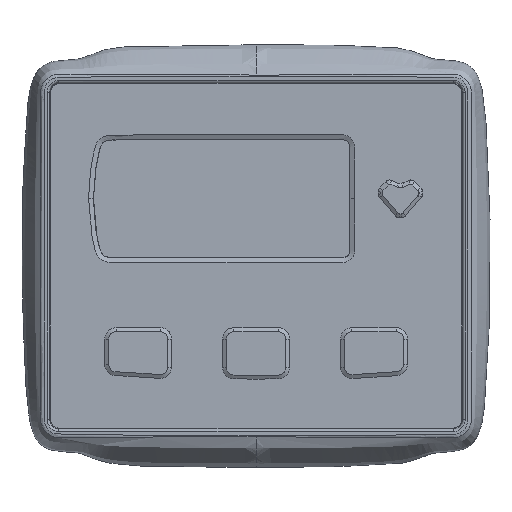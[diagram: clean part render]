
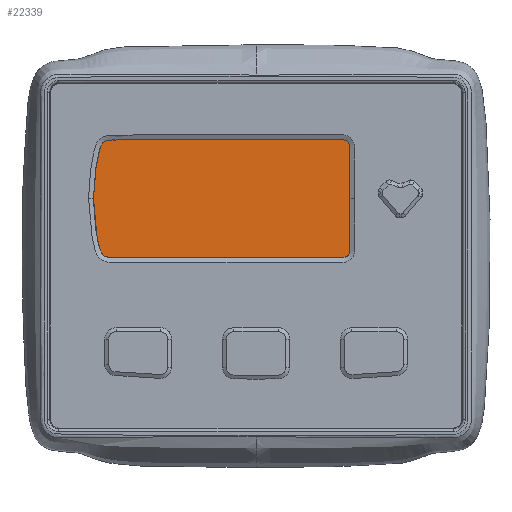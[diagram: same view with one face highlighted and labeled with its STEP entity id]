
A CAD part, top view. The second image highlights one B-rep face of the part: STEP entity #22339.
In plain terms, the highlighted planar face has unit normal (0, 0, 1).
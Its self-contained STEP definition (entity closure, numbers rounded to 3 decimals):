
#2550 = FACE_OUTER_BOUND ( 'NONE', #78113, .T. ) ;
#3011 = LINE ( 'NONE', #44570, #86327 ) ;
#3074 = DIRECTION ( 'NONE',  ( 0., -1., 0. ) ) ;
#7220 = CARTESIAN_POINT ( 'NONE',  ( -30.766, 23.304, -1.05 ) ) ;
#10735 = CARTESIAN_POINT ( 'NONE',  ( 19.1, 22.138, -1.05 ) ) ;
#11835 = CARTESIAN_POINT ( 'NONE',  ( -32.6, 18.304, -1.05 ) ) ;
#12476 = VERTEX_POINT ( 'NONE', #54281 ) ;
#12766 = DIRECTION ( 'NONE',  ( 0., 0., -1. ) ) ;
#13249 = DIRECTION ( 'NONE',  ( 0., 0., -1. ) ) ;
#13351 = CARTESIAN_POINT ( 'NONE',  ( -30.1, -0.362, -1.05 ) ) ;
#14877 = CIRCLE ( 'NONE', #93397, 1.5 ) ;
#15243 = CARTESIAN_POINT ( 'NONE',  ( 17.6, -0.362, -1.05 ) ) ;
#15381 = LINE ( 'NONE', #69327, #17343 ) ;
#17120 = ORIENTED_EDGE ( 'NONE', *, *, #20414, .F. ) ;
#17143 = EDGE_CURVE ( 'NONE', #25915, #35709, #54727, .T. ) ;
#17343 = VECTOR ( 'NONE', #27702, 1000. ) ;
#19435 = CARTESIAN_POINT ( 'NONE',  ( -27.6, 23.638, -1.05 ) ) ;
#20414 = EDGE_CURVE ( 'NONE', #71921, #29256, #14877, .T. ) ;
#22112 = ORIENTED_EDGE ( 'NONE', *, *, #17143, .F. ) ;
#22339 = ADVANCED_FACE ( 'NONE', ( #2550 ), #59469, .T. ) ;
#22951 = ORIENTED_EDGE ( 'NONE', *, *, #40014, .F. ) ;
#25915 = VERTEX_POINT ( 'NONE', #34453 ) ;
#27702 = DIRECTION ( 'NONE',  ( 1., 0., 0. ) ) ;
#29256 = VERTEX_POINT ( 'NONE', #10735 ) ;
#29965 = VERTEX_POINT ( 'NONE', #19435 ) ;
#30229 = CARTESIAN_POINT ( 'NONE',  ( 24.322, -2.763, -1.05 ) ) ;
#31174 = EDGE_CURVE ( 'NONE', #29256, #25915, #52345, .T. ) ;
#32230 = EDGE_CURVE ( 'NONE', #35709, #12476, #3011, .T. ) ;
#34453 = CARTESIAN_POINT ( 'NONE',  ( 19.1, 1.138, -1.05 ) ) ;
#35709 = VERTEX_POINT ( 'NONE', #15243 ) ;
#36608 = CARTESIAN_POINT ( 'NONE',  ( 17.6, 23.638, -1.05 ) ) ;
#37990 = CARTESIAN_POINT ( 'NONE',  ( -30.766, -0.029, -1.05 ) ) ;
#38581 = VECTOR ( 'NONE', #3074, 1000. ) ;
#38871 = ORIENTED_EDGE ( 'NONE', *, *, #32230, .F. ) ;
#39575 = CARTESIAN_POINT ( 'NONE',  ( -27.6, 23.638, -1.05 ) ) ;
#40014 = EDGE_CURVE ( 'NONE', #29965, #71921, #15381, .T. ) ;
#41088 = CARTESIAN_POINT ( 'NONE',  ( -33.1, 11.638, -1.05 ) ) ;
#42507 = DIRECTION ( 'NONE',  ( 1., 0., 0. ) ) ;
#44570 = CARTESIAN_POINT ( 'NONE',  ( -5., -0.362, -1.05 ) ) ;
#45713 = CARTESIAN_POINT ( 'NONE',  ( -32.6, 4.971, -1.05 ) ) ;
#48824 = CARTESIAN_POINT ( 'NONE',  ( -31.433, 22.971, -1.05 ) ) ;
#50329 = CARTESIAN_POINT ( 'NONE',  ( -31.766, 0.971, -1.05 ) ) ;
#52345 = LINE ( 'NONE', #80073, #38581 ) ;
#53426 = CARTESIAN_POINT ( 'NONE',  ( -33.1, 14.971, -1.05 ) ) ;
#54281 = CARTESIAN_POINT ( 'NONE',  ( -27.6, -0.362, -1.05 ) ) ;
#54351 = CARTESIAN_POINT ( 'NONE',  ( 17.6, 22.138, -1.05 ) ) ;
#54632 = ORIENTED_EDGE ( 'NONE', *, *, #87698, .F. ) ;
#54727 = CIRCLE ( 'NONE', #71701, 1.5 ) ;
#54826 = CARTESIAN_POINT ( 'NONE',  ( 17.6, 1.138, -1.05 ) ) ;
#55582 = ORIENTED_EDGE ( 'NONE', *, *, #31174, .F. ) ;
#56146 = AXIS2_PLACEMENT_3D ( 'NONE', #30229, #71828, #42507 ) ;
#59469 = PLANE ( 'NONE',  #56146 ) ;
#59549 = CARTESIAN_POINT ( 'NONE',  ( -27.6, -0.362, -1.05 ) ) ;
#65735 = CARTESIAN_POINT ( 'NONE',  ( -32.183, 20.304, -1.05 ) ) ;
#66687 = DIRECTION ( 'NONE',  ( -1., 0., 0. ) ) ;
#67181 = DIRECTION ( 'NONE',  ( -1., 0., 0. ) ) ;
#68888 = CARTESIAN_POINT ( 'NONE',  ( -30.1, 23.638, -1.05 ) ) ;
#69327 = CARTESIAN_POINT ( 'NONE',  ( -5., 23.638, -1.05 ) ) ;
#71701 = AXIS2_PLACEMENT_3D ( 'NONE', #54826, #13249, #67181 ) ;
#71828 = DIRECTION ( 'NONE',  ( 0., 0., 1. ) ) ;
#71921 = VERTEX_POINT ( 'NONE', #36608 ) ;
#78113 = EDGE_LOOP ( 'NONE', ( #22951, #54632, #38871, #22112, #55582, #17120 ) ) ;
#80073 = CARTESIAN_POINT ( 'NONE',  ( 19.1, 11.638, -1.05 ) ) ;
#81213 = CARTESIAN_POINT ( 'NONE',  ( -29.1, 23.638, -1.05 ) ) ;
#81336 = B_SPLINE_CURVE_WITH_KNOTS ( 'NONE', 3,
 ( #59549, #84254, #13351, #37990, #92027, #50329, #87349, #45713, #82735, #41088, #53426, #11835, #65735, #90502, #48824, #7220, #68888, #81213, #39575 ),
 .UNSPECIFIED., .F., .F.,
 ( 4, 3, 3, 3, 3, 3, 4 ),
 ( 0., 0.005, 0.01, 0.015, 0.02, 0.026, 0.031 ),
 .UNSPECIFIED. ) ;
#82735 = CARTESIAN_POINT ( 'NONE',  ( -33.1, 8.304, -1.05 ) ) ;
#84254 = CARTESIAN_POINT ( 'NONE',  ( -29.1, -0.362, -1.05 ) ) ;
#86216 = DIRECTION ( 'NONE',  ( -1., 0., 0. ) ) ;
#86327 = VECTOR ( 'NONE', #86216, 1000. ) ;
#87349 = CARTESIAN_POINT ( 'NONE',  ( -32.183, 2.971, -1.05 ) ) ;
#87698 = EDGE_CURVE ( 'NONE', #12476, #29965, #81336, .T. ) ;
#90502 = CARTESIAN_POINT ( 'NONE',  ( -31.766, 22.304, -1.05 ) ) ;
#92027 = CARTESIAN_POINT ( 'NONE',  ( -31.433, 0.304, -1.05 ) ) ;
#93397 = AXIS2_PLACEMENT_3D ( 'NONE', #54351, #12766, #66687 ) ;
